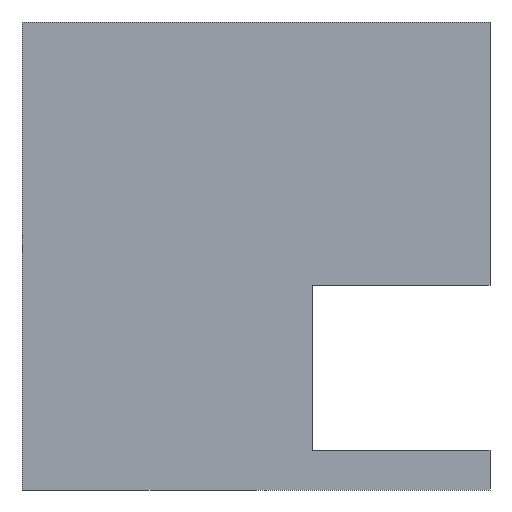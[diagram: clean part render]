
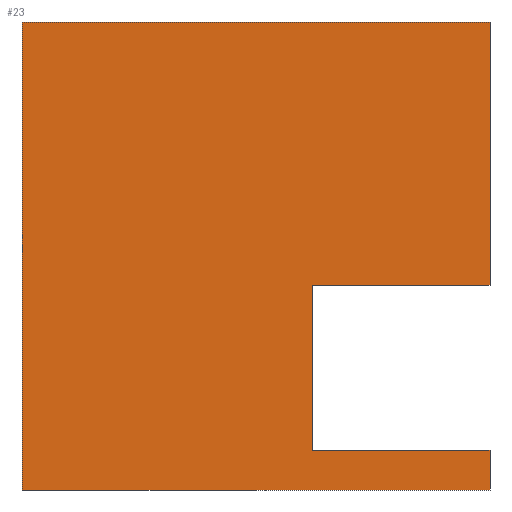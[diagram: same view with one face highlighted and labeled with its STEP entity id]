
A CAD part, left-side view. The second image highlights one B-rep face of the part: STEP entity #23.
In plain terms, the highlighted planar face has unit normal (-1, 0, 0).
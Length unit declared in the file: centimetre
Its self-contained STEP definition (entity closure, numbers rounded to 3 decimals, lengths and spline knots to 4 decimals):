
#7 = EDGE_CURVE ( 'NONE', #190, #478, #370, .T. ) ;
#11 = CARTESIAN_POINT ( 'NONE',  ( 0., 1000., 1000. ) ) ;
#23 = ADVANCED_FACE ( 'NONE', ( #304 ), #465, .F. ) ;
#29 = VECTOR ( 'NONE', #345, 100. ) ;
#30 = CARTESIAN_POINT ( 'NONE',  ( 0., 0., 1000. ) ) ;
#34 = LINE ( 'NONE', #443, #29 ) ;
#48 = EDGE_CURVE ( 'NONE', #303, #618, #417, .T. ) ;
#64 = AXIS2_PLACEMENT_3D ( 'NONE', #403, #520, #211 ) ;
#85 = DIRECTION ( 'NONE',  ( 0., 0., -1. ) ) ;
#98 = ORIENTED_EDGE ( 'NONE', *, *, #48, .F. ) ;
#105 = VERTEX_POINT ( 'NONE', #161 ) ;
#113 = EDGE_CURVE ( 'NONE', #618, #433, #372, .T. ) ;
#124 = VERTEX_POINT ( 'NONE', #476 ) ;
#142 = CARTESIAN_POINT ( 'NONE',  ( 0., 1000., 1000. ) ) ;
#143 = DIRECTION ( 'NONE',  ( 0., 1., 0. ) ) ;
#152 = VECTOR ( 'NONE', #143, 100. ) ;
#161 = CARTESIAN_POINT ( 'NONE',  ( 0., 0., 0. ) ) ;
#164 = ORIENTED_EDGE ( 'NONE', *, *, #617, .F. ) ;
#178 = ORIENTED_EDGE ( 'NONE', *, *, #113, .F. ) ;
#179 = CARTESIAN_POINT ( 'NONE',  ( 0., 0., 437.0029 ) ) ;
#184 = CARTESIAN_POINT ( 'NONE',  ( 0., 1000., 0. ) ) ;
#190 = VERTEX_POINT ( 'NONE', #328 ) ;
#211 = DIRECTION ( 'NONE',  ( 0., 0., -1. ) ) ;
#218 = EDGE_CURVE ( 'NONE', #478, #105, #232, .T. ) ;
#220 = ORIENTED_EDGE ( 'NONE', *, *, #285, .F. ) ;
#232 = LINE ( 'NONE', #386, #350 ) ;
#253 = EDGE_LOOP ( 'NONE', ( #220, #164, #178, #98, #660, #634, #406, #471 ) ) ;
#259 = EDGE_CURVE ( 'NONE', #124, #303, #34, .T. ) ;
#264 = VECTOR ( 'NONE', #649, 100. ) ;
#267 = VERTEX_POINT ( 'NONE', #441 ) ;
#271 = CARTESIAN_POINT ( 'NONE',  ( 0., 378.5071, 84.4082 ) ) ;
#285 = EDGE_CURVE ( 'NONE', #267, #105, #490, .T. ) ;
#303 = VERTEX_POINT ( 'NONE', #179 ) ;
#304 = FACE_OUTER_BOUND ( 'NONE', #253, .T. ) ;
#328 = CARTESIAN_POINT ( 'NONE',  ( 0., 1000., 1000. ) ) ;
#345 = DIRECTION ( 'NONE',  ( 0., 0., -1. ) ) ;
#350 = VECTOR ( 'NONE', #587, 100. ) ;
#352 = CARTESIAN_POINT ( 'NONE',  ( 0., 0., 84.4082 ) ) ;
#353 = DIRECTION ( 'NONE',  ( 0., -1., 0. ) ) ;
#370 = LINE ( 'NONE', #11, #636 ) ;
#372 = LINE ( 'NONE', #271, #581 ) ;
#386 = CARTESIAN_POINT ( 'NONE',  ( 0., 1000., 0. ) ) ;
#389 = CARTESIAN_POINT ( 'NONE',  ( 0., 378.5071, 437.0029 ) ) ;
#401 = LINE ( 'NONE', #142, #593 ) ;
#403 = CARTESIAN_POINT ( 'NONE',  ( 0., 1000., 1000. ) ) ;
#406 = ORIENTED_EDGE ( 'NONE', *, *, #7, .T. ) ;
#417 = LINE ( 'NONE', #605, #152 ) ;
#433 = VERTEX_POINT ( 'NONE', #661 ) ;
#441 = CARTESIAN_POINT ( 'NONE',  ( 0., 0., 84.4082 ) ) ;
#443 = CARTESIAN_POINT ( 'NONE',  ( 0., 0., 1000. ) ) ;
#448 = LINE ( 'NONE', #352, #264 ) ;
#458 = VECTOR ( 'NONE', #85, 100. ) ;
#465 = PLANE ( 'NONE',  #64 ) ;
#471 = ORIENTED_EDGE ( 'NONE', *, *, #218, .T. ) ;
#473 = EDGE_CURVE ( 'NONE', #190, #124, #401, .T. ) ;
#476 = CARTESIAN_POINT ( 'NONE',  ( 0., 0., 1000. ) ) ;
#478 = VERTEX_POINT ( 'NONE', #184 ) ;
#490 = LINE ( 'NONE', #30, #458 ) ;
#520 = DIRECTION ( 'NONE',  ( 1., 0., 0. ) ) ;
#570 = DIRECTION ( 'NONE',  ( 0., 0., -1. ) ) ;
#581 = VECTOR ( 'NONE', #570, 100. ) ;
#587 = DIRECTION ( 'NONE',  ( 0., -1., 0. ) ) ;
#593 = VECTOR ( 'NONE', #353, 100. ) ;
#605 = CARTESIAN_POINT ( 'NONE',  ( 0., 0., 437.0029 ) ) ;
#608 = DIRECTION ( 'NONE',  ( 0., 0., -1. ) ) ;
#617 = EDGE_CURVE ( 'NONE', #433, #267, #448, .T. ) ;
#618 = VERTEX_POINT ( 'NONE', #389 ) ;
#634 = ORIENTED_EDGE ( 'NONE', *, *, #473, .F. ) ;
#636 = VECTOR ( 'NONE', #608, 100. ) ;
#649 = DIRECTION ( 'NONE',  ( 0., -1., 0. ) ) ;
#660 = ORIENTED_EDGE ( 'NONE', *, *, #259, .F. ) ;
#661 = CARTESIAN_POINT ( 'NONE',  ( 0., 378.5071, 84.4082 ) ) ;
